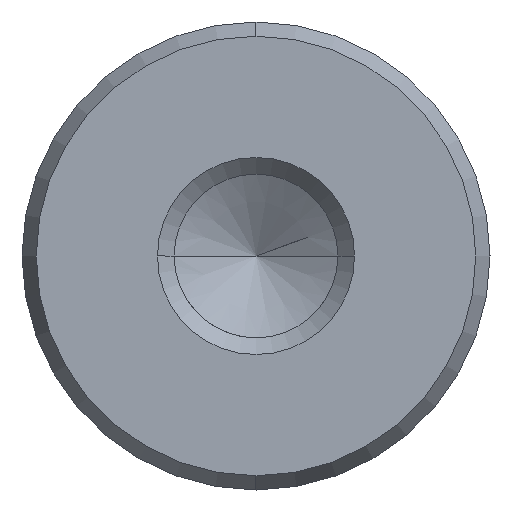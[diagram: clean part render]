
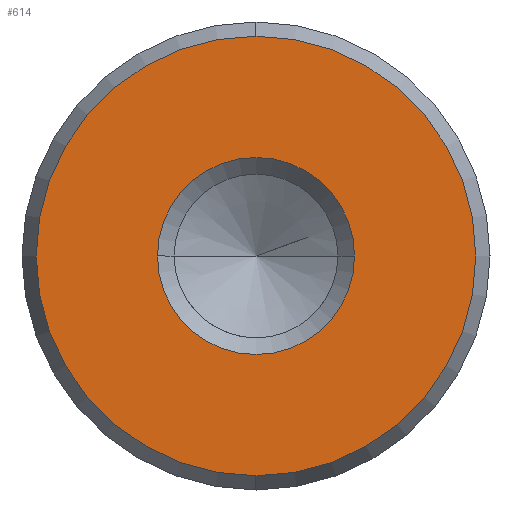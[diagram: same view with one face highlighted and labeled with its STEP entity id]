
A CAD part, left-side view. The second image highlights one B-rep face of the part: STEP entity #614.
In plain terms, the highlighted planar face has unit normal (-1, 0, 0).
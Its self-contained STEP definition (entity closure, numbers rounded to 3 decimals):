
#528=CARTESIAN_POINT('Vertex',(0.,0.,-8.923)) ;
#531=CARTESIAN_POINT('Axis2P3D Location',(0.,0.,0.)) ;
#535=CARTESIAN_POINT('Vertex',(0.,8.923,0.)) ;
#538=CARTESIAN_POINT('Axis2P3D Location',(0.,0.,0.)) ;
#542=CARTESIAN_POINT('Vertex',(0.,0.,8.923)) ;
#564=CARTESIAN_POINT('Axis2P3D Location',(0.,0.,0.)) ;
#568=CARTESIAN_POINT('Vertex',(0.,-8.923,0.)) ;
#571=CARTESIAN_POINT('Axis2P3D Location',(0.,0.,0.)) ;
#585=CARTESIAN_POINT('Axis2P3D Location',(0.,0.,0.)) ;
#596=CARTESIAN_POINT('Axis2P3D Location',(0.,0.,0.)) ;
#600=CARTESIAN_POINT('Vertex',(0.,4.,0.)) ;
#602=CARTESIAN_POINT('Vertex',(0.,-4.,0.)) ;
#605=CARTESIAN_POINT('Axis2P3D Location',(0.,0.,0.)) ;
#532=DIRECTION('Axis2P3D Direction',(1.,0.,-0.)) ;
#539=DIRECTION('Axis2P3D Direction',(1.,0.,-0.)) ;
#565=DIRECTION('Axis2P3D Direction',(1.,0.,-0.)) ;
#572=DIRECTION('Axis2P3D Direction',(1.,0.,-0.)) ;
#586=DIRECTION('Axis2P3D Direction',(1.,0.,-0.)) ;
#587=DIRECTION('Axis2P3D XDirection',(-0.,0.,-1.)) ;
#597=DIRECTION('Axis2P3D Direction',(1.,0.,-0.)) ;
#606=DIRECTION('Axis2P3D Direction',(1.,0.,-0.)) ;
#533=AXIS2_PLACEMENT_3D('Circle Axis2P3D',#531,#532,$) ;
#540=AXIS2_PLACEMENT_3D('Circle Axis2P3D',#538,#539,$) ;
#566=AXIS2_PLACEMENT_3D('Circle Axis2P3D',#564,#565,$) ;
#573=AXIS2_PLACEMENT_3D('Circle Axis2P3D',#571,#572,$) ;
#588=AXIS2_PLACEMENT_3D('Plane Axis2P3D',#585,#586,#587) ;
#598=AXIS2_PLACEMENT_3D('Circle Axis2P3D',#596,#597,$) ;
#607=AXIS2_PLACEMENT_3D('Circle Axis2P3D',#605,#606,$) ;
#591=ORIENTED_EDGE('',*,*,#537,.F.) ;
#592=ORIENTED_EDGE('',*,*,#575,.F.) ;
#593=ORIENTED_EDGE('',*,*,#570,.F.) ;
#594=ORIENTED_EDGE('',*,*,#544,.F.) ;
#611=ORIENTED_EDGE('',*,*,#604,.T.) ;
#612=ORIENTED_EDGE('',*,*,#609,.T.) ;
#613=FACE_BOUND('',#610,.T.) ;
#614=ADVANCED_FACE('720-19x250',(#595,#613),#589,.F.) ;
#534=CIRCLE('generated circle',#533,8.923) ;
#541=CIRCLE('generated circle',#540,8.923) ;
#567=CIRCLE('generated circle',#566,8.923) ;
#574=CIRCLE('generated circle',#573,8.923) ;
#599=CIRCLE('generated circle',#598,4.) ;
#608=CIRCLE('generated circle',#607,4.) ;
#537=EDGE_CURVE('',#529,#536,#534,.T.) ;
#544=EDGE_CURVE('',#536,#543,#541,.T.) ;
#570=EDGE_CURVE('',#543,#569,#567,.T.) ;
#575=EDGE_CURVE('',#569,#529,#574,.T.) ;
#604=EDGE_CURVE('',#601,#603,#599,.T.) ;
#609=EDGE_CURVE('',#603,#601,#608,.T.) ;
#590=EDGE_LOOP('',(#591,#592,#593,#594)) ;
#610=EDGE_LOOP('',(#611,#612)) ;
#595=FACE_OUTER_BOUND('',#590,.T.) ;
#589=PLANE('Plane',#588) ;
#529=VERTEX_POINT('',#528) ;
#536=VERTEX_POINT('',#535) ;
#543=VERTEX_POINT('',#542) ;
#569=VERTEX_POINT('',#568) ;
#601=VERTEX_POINT('',#600) ;
#603=VERTEX_POINT('',#602) ;
